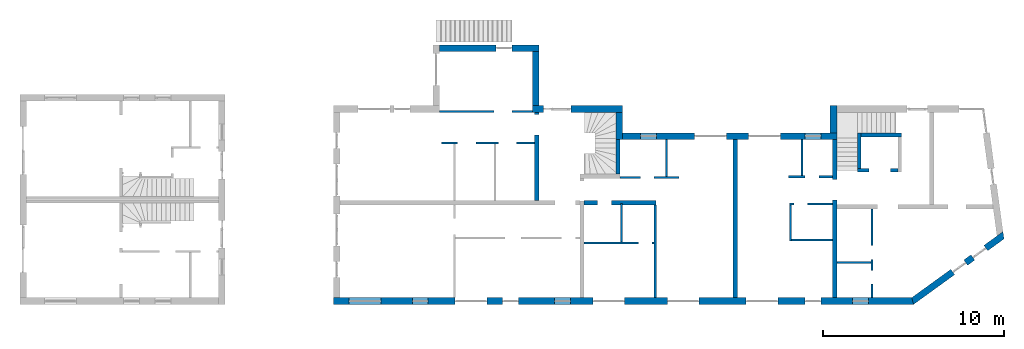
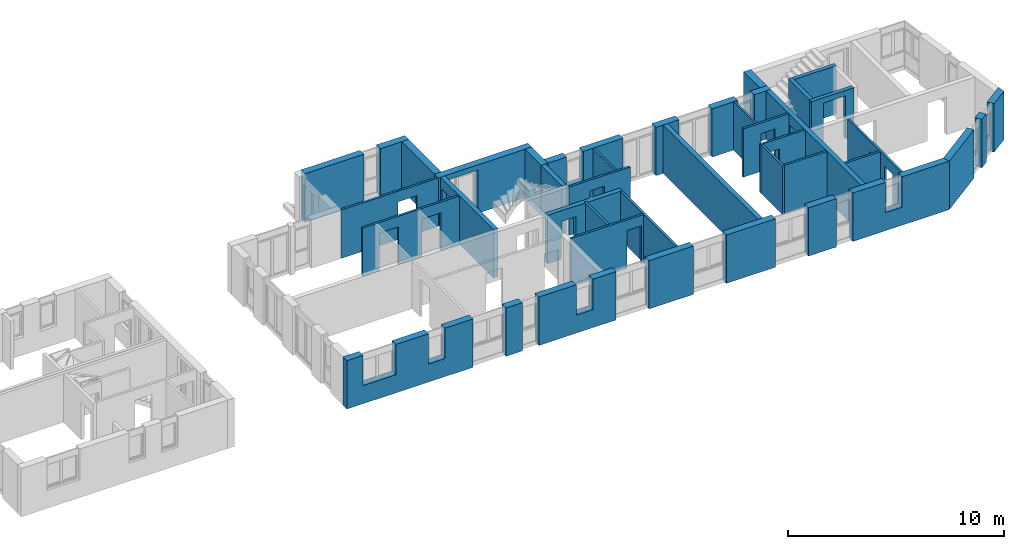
# One storey, part 2 of 41: 30 walls, 31 openings.
"""IFC2X3 building model written with IfcOpenShell, lengths in millimetres."""

from ifc_helpers import new_model, entity, si_unit, converted_unit, frame, frame_2d, origin, origin_with_axes, place, context, subcontext, project, spatial, polyline, rectangle, outline, extrude, material, layer, layer_set, layer_usage, element, save


model = new_model("IFC2X3")

# Units and contexts
model_context = context("Model", 3, precision=1e-05, world=origin())
body_context = subcontext(model_context, "Body", "Model", "MODEL_VIEW")
ifc_project = project(units=[si_unit("LENGTHUNIT", "METRE", prefix="MILLI"), converted_unit("PLANEANGLEUNIT", "DEGREE", entity("IfcPlaneAngleMeasure", 0.0174532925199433), si_unit("PLANEANGLEUNIT", "RADIAN"), dimensions=[0, 0, 0, 0, 0, 0, 0]), si_unit("AREAUNIT", "SQUARE_METRE"), si_unit("VOLUMEUNIT", "CUBIC_METRE")], contexts=[model_context])

# Building, storey
building_placement = place(None, origin())
building = spatial("IfcBuilding", under=ifc_project, at=building_placement, Name="Gebäude", CompositionType="ELEMENT")
storey_placement = place(building_placement, frame((0.0, 0.0, -200.0), z_axis=(0.0, 0.0, 1.0), x_axis=(1.0, 0.0, 0.0)))
storey = spatial("IfcBuildingStorey", under=building, at=storey_placement, Name="EG.- Grundriss", CompositionType="ELEMENT", Elevation=-200.0)

# Wall, openings
ifc_material_1 = material(Name="Poroton")
ifc_layer_1 = layer(ifc_material_1, 365.0000000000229)
ifc_layer_set_1 = layer_set([ifc_layer_1])
ifc_layer_usage_1 = layer_usage(ifc_layer_set_1, "AXIS2", "POSITIVE", 0.0)
wall_1_placement = place(storey_placement, frame((148357.7928067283, 125274.8877324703, 0.0), z_axis=(0.0, 0.0, 1.0), x_axis=(1.0, -2.749268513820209e-11, 0.0)))
wall_1 = element("IfcWallStandardCase", 1, at=wall_1_placement, inside=storey, material=ifc_layer_usage_1, Name="<Unnamed Element>", context=body_context, shape_type="SweptSolid", body=[
    extrude(outline(polyline([(0.0, 0.0), (32144.99999877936, 0.0), (32026.74038666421, 365.0000000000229), (-1.003483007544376e-08, 365.0), (0.0, 0.0)])), origin_with_axes(), (0.0, 0.0, 1.0), 2730.0),
])
opening_1_placement = place(wall_1_placement, frame((28740.29648749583, -1.103025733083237e-10, 1020.0), z_axis=(0.0, 1.0, 0.0), x_axis=(0.0, 0.0, 1.0)))
element("IfcOpeningElement", 2, at=opening_1_placement, cuts=wall_1, Name="Fensteröffnung", ObjectType="Opening", context=body_context, shape_type="SweptSolid", body=[
    extrude(rectangle(XDim=1710.0, YDim=885.0, at=frame_2d((855.0, 442.5), x_axis=(1.0, 0.0))), origin_with_axes(), (0.0, 0.0, 1.0), 365.0000000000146),
])
opening_2_placement = place(wall_1_placement, frame((26115.29648749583, -1.048456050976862e-10, 0.0), z_axis=(0.0, 1.0, 0.0), x_axis=(0.0, 0.0, 1.0)))
element("IfcOpeningElement", 3, at=opening_2_placement, cuts=wall_1, Name="Fensteröffnung", ObjectType="Opening", context=body_context, shape_type="SweptSolid", body=[
    extrude(rectangle(XDim=2730.0, YDim=885.0, at=frame_2d((1365.0, 442.5), x_axis=(1.0, 0.0))), origin_with_axes(), (0.0, 0.0, 1.0), 365.0000000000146),
])
opening_3_placement = place(wall_1_placement, frame((22865.29648749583, -7.937975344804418e-11, 0.0), z_axis=(0.0, 1.0, 0.0), x_axis=(0.0, 0.0, 1.0)))
element("IfcOpeningElement", 4, at=opening_3_placement, cuts=wall_1, Name="Fensteröffnung", ObjectType="Opening", context=body_context, shape_type="SweptSolid", body=[
    extrude(rectangle(XDim=2730.0, YDim=1760.0, at=frame_2d((1365.0, 880.0), x_axis=(1.0, 0.0))), origin_with_axes(), (0.0, 0.0, 1.0), 365.0000000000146),
])
opening_4_placement = place(wall_1_placement, frame((18490.51063065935, -4.984640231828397e-11, 0.0), z_axis=(0.0, 1.0, 0.0), x_axis=(0.0, 0.0, 1.0)))
element("IfcOpeningElement", 5, at=opening_4_placement, cuts=wall_1, Name="Fensteröffnung", ObjectType="Opening", context=body_context, shape_type="SweptSolid", body=[
    extrude(rectangle(XDim=2730.0, YDim=1760.0, at=frame_2d((1365.0, 880.0), x_axis=(1.0, 0.0))), origin_with_axes(), (0.0, 0.0, 1.0), 365.0000000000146),
])
opening_5_placement = place(wall_1_placement, frame((14365.26291871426, -7.302655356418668e-11, 0.0), z_axis=(0.0, 1.0, 0.0), x_axis=(0.0, 0.0, 1.0)))
element("IfcOpeningElement", 6, at=opening_5_placement, cuts=wall_1, Name="Fensteröffnung", ObjectType="Opening", context=body_context, shape_type="SweptSolid", body=[
    extrude(rectangle(XDim=2730.0, YDim=1760.0, at=frame_2d((1365.0, 880.0), x_axis=(1.0, 0.0))), origin_with_axes(), (0.0, 0.0, 1.0), 365.0000000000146),
])
opening_6_placement = place(wall_1_placement, frame((12240.0, -5.296897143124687e-11, 1020.0), z_axis=(0.0, 1.0, 0.0), x_axis=(0.0, 0.0, 1.0)))
element("IfcOpeningElement", 7, at=opening_6_placement, cuts=wall_1, Name="Fensteröffnung", ObjectType="Opening", context=body_context, shape_type="SweptSolid", body=[
    extrude(rectangle(XDim=1710.0, YDim=885.0, at=frame_2d((855.0, 442.5), x_axis=(1.0, 0.0))), origin_with_axes(), (0.0, 0.0, 1.0), 365.0000000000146),
])
opening_7_placement = place(wall_1_placement, frame((9365.0, -3.659806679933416e-11, 0.0), z_axis=(0.0, 1.0, 0.0), x_axis=(0.0, 0.0, 1.0)))
element("IfcOpeningElement", 8, at=opening_7_placement, cuts=wall_1, Name="Fensteröffnung", ObjectType="Opening", context=body_context, shape_type="SweptSolid", body=[
    extrude(rectangle(XDim=2730.0, YDim=885.0, at=frame_2d((1365.0, 442.5), x_axis=(1.0, 0.0))), origin_with_axes(), (0.0, 0.0, 1.0), 365.0000000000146),
])
opening_8_placement = place(wall_1_placement, frame((6740.0, -3.114109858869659e-11, 0.0), z_axis=(0.0, 1.0, 0.0), x_axis=(0.0, 0.0, 1.0)))
element("IfcOpeningElement", 9, at=opening_8_placement, cuts=wall_1, Name="Fensteröffnung", ObjectType="Opening", context=body_context, shape_type="SweptSolid", body=[
    extrude(rectangle(XDim=2730.0, YDim=1760.0, at=frame_2d((1365.0, 880.0), x_axis=(1.0, 0.0))), origin_with_axes(), (0.0, 0.0, 1.0), 365.0000000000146),
])
opening_9_placement = place(wall_1_placement, frame((4365.0, -7.494236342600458e-12, 1020.0), z_axis=(0.0, 1.0, 0.0), x_axis=(0.0, 0.0, 1.0)))
element("IfcOpeningElement", 10, at=opening_9_placement, cuts=wall_1, Name="Fensteröffnung", ObjectType="Opening", context=body_context, shape_type="SweptSolid", body=[
    extrude(rectangle(XDim=1710.0, YDim=885.0, at=frame_2d((855.0, 442.5), x_axis=(1.0, 0.0))), origin_with_axes(), (0.0, 0.0, 1.0), 365.0000000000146),
])
opening_10_placement = place(wall_1_placement, frame((865.0, -2.182787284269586e-13, 1020.0), z_axis=(0.0, 1.0, 0.0), x_axis=(0.0, 0.0, 1.0)))
element("IfcOpeningElement", 11, at=opening_10_placement, cuts=wall_1, Name="Fensteröffnung", ObjectType="Opening", context=body_context, shape_type="SweptSolid", body=[
    extrude(rectangle(XDim=1710.0, YDim=1760.0, at=frame_2d((854.9999999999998, 880.0), x_axis=(1.0, 0.0))), origin_with_axes(), (0.0, 0.0, 1.0), 365.0000000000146),
])

ifc_material_2 = material(Name="Poroton")
ifc_layer_2 = layer(ifc_material_2, 364.9999999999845)
ifc_layer_set_2 = layer_set([ifc_layer_2])
ifc_layer_usage_2 = layer_usage(ifc_layer_set_2, "AXIS2", "POSITIVE", 0.0)
wall_2_placement = place(storey_placement, frame((180502.7928055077, 125274.8877315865, 0.0), z_axis=(0.0, 0.0, 1.0), x_axis=(0.8099951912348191, 0.5864365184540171, 0.0)))
wall_2 = element("IfcWallStandardCase", 12, at=wall_2_placement, inside=storey, material=ifc_layer_usage_2, Name="<Unnamed Element>", context=body_context, shape_type="SweptSolid", body=[
    extrude(outline(polyline([(0.0, 0.0), (6172.876154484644, 0.0), (6368.596706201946, 364.9999999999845), (118.2596121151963, 365.0000000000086), (0.0, 0.0)])), origin_with_axes(), (0.0, 0.0, 1.0), 2730.0),
])
opening_11_placement = place(wall_2_placement, frame((4174.999999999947, 1.546140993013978e-11, 0.0), z_axis=(0.0, 1.0, 0.0), x_axis=(0.0, 0.0, 1.0)))
element("IfcOpeningElement", 13, at=opening_11_placement, cuts=wall_2, Name="Fensteröffnung", ObjectType="Opening", context=body_context, shape_type="SweptSolid", body=[
    extrude(rectangle(XDim=2730.0, YDim=885.0, at=frame_2d((1365.0, 442.5), x_axis=(1.0, 0.0))), origin_with_axes(), (0.0, 0.0, 1.0), 364.9999999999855),
])
opening_12_placement = place(wall_2_placement, frame((2799.999999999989, 2.023625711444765e-11, 0.0), z_axis=(0.0, 1.0, 0.0), x_axis=(0.0, 0.0, 1.0)))
element("IfcOpeningElement", 14, at=opening_12_placement, cuts=wall_2, Name="Fensteröffnung", ObjectType="Opening", context=body_context, shape_type="SweptSolid", body=[
    extrude(rectangle(XDim=2730.0, YDim=884.9999999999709, at=frame_2d((1365.0, 442.4999999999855), x_axis=(1.0, 0.0))), origin_with_axes(), (0.0, 0.0, 1.0), 365.0),
])

# Wall, opening
ifc_material_3 = material(Name="Poroton")
ifc_layer_3 = layer(ifc_material_3, 365.0000000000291)
ifc_layer_set_3 = layer_set([ifc_layer_3])
ifc_layer_usage_3 = layer_usage(ifc_layer_set_3, "AXIS2", "POSITIVE", 0.0)
wall_3_placement = place(storey_placement, frame((154222.7928067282, 139284.8877324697, 0.0), z_axis=(0.0, 0.0, 1.0), x_axis=(0.9999999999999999, 0.0, 0.0)))
wall_3 = element("IfcWallStandardCase", 15, at=wall_3_placement, inside=storey, material=ifc_layer_usage_3, Name="<Unnamed Element>", context=body_context, shape_type="SweptSolid", body=[
    extrude(rectangle(XDim=5520.000000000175, YDim=365.0000000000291, at=frame_2d((2760.000000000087, 182.5000000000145), x_axis=(1.0, 0.0))), origin_with_axes(), (0.0, 0.0, 1.0), 2730.0),
])
opening_13_placement = place(wall_3_placement, frame((3145.000000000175, 0.0, 0.0), z_axis=(0.0, 1.0, 0.0), x_axis=(0.0, 0.0, 1.0)))
element("IfcOpeningElement", 16, at=opening_13_placement, cuts=wall_3, Name="Fensteröffnung", ObjectType="Opening", context=body_context, shape_type="SweptSolid", body=[
    extrude(rectangle(XDim=2730.0, YDim=885.0, at=frame_2d((1365.0, 442.5), x_axis=(1.0, 0.0))), origin_with_axes(), (0.0, 0.0, 1.0), 365.0000000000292),
])

# Walls
ifc_material_4 = material(Name="Poroton")
ifc_layer_4 = layer(ifc_material_4, 365.0000000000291)
ifc_layer_set_4 = layer_set([ifc_layer_4])
ifc_layer_usage_4 = layer_usage(ifc_layer_set_4, "AXIS2", "POSITIVE", 0.0)
wall_4_placement = place(storey_placement, frame((159377.7928067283, 139284.8877324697, 0.0), z_axis=(0.0, 0.0, 1.0), x_axis=(0.0, -1.0, 0.0)))
element("IfcWallStandardCase", 17, at=wall_4_placement, inside=storey, material=ifc_layer_usage_4, Name="<Unnamed Element>", context=body_context, shape_type="SweptSolid", body=[
    extrude(rectangle(XDim=3009.999999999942, YDim=365.0000000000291, at=frame_2d((1504.999999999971, 182.5000000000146), x_axis=(1.0, 0.0))), origin_with_axes(), (0.0, 0.0, 1.0), 2730.0),
])
ifc_material_5 = material(Name="Poroton")
ifc_layer_5 = layer(ifc_material_5, 365.0000000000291)
ifc_layer_set_5 = layer_set([ifc_layer_5])
ifc_layer_usage_5 = layer_usage(ifc_layer_set_5, "AXIS2", "POSITIVE", 0.0)
wall_5_placement = place(storey_placement, frame((164367.7928067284, 134409.8877324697, 0.0), z_axis=(0.0, 0.0, 1.0), x_axis=(0.0, 1.0, 0.0)))
element("IfcWallStandardCase", 18, at=wall_5_placement, inside=storey, material=ifc_layer_usage_5, Name="<Unnamed Element>", context=body_context, shape_type="SweptSolid", body=[
    extrude(rectangle(XDim=1499.999999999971, YDim=365.0000000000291, at=frame_2d((749.9999999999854, 182.5000000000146), x_axis=(1.0, 0.0))), origin_with_axes(), (0.0, 0.0, 1.0), 2730.0),
])

# Wall, opening
ifc_material_6 = material(Name="Poroton")
ifc_layer_6 = layer(ifc_material_6, 365.0000000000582)
ifc_layer_set_6 = layer_set([ifc_layer_6])
ifc_layer_usage_6 = layer_usage(ifc_layer_set_6, "AXIS2", "POSITIVE", 0.0)
wall_6_placement = place(storey_placement, frame((164367.7928067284, 136274.8877324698, 0.0), z_axis=(0.0, 0.0, 1.0), x_axis=(-1.0, 0.0, 0.0)))
wall_6 = element("IfcWallStandardCase", 19, at=wall_6_placement, inside=storey, material=ifc_layer_usage_6, Name="<Unnamed Element>", context=body_context, shape_type="SweptSolid", body=[
    extrude(rectangle(XDim=4990.000000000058, YDim=365.0000000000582, at=frame_2d((2495.000000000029, 182.5000000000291), x_axis=(1.0, 0.0))), origin_with_axes(), (0.0, 0.0, 1.0), 2730.0),
])
opening_14_placement = place(wall_6_placement, frame((2865.000000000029, 0.0, 0.0), z_axis=(0.0, 1.0, 0.0), x_axis=(0.0, 0.0, 1.0)))
element("IfcOpeningElement", 20, at=opening_14_placement, cuts=wall_6, Name="Türöffnung", ObjectType="Opening", context=body_context, shape_type="SweptSolid", body=[
    extrude(rectangle(XDim=2430.0, YDim=1510.0, at=frame_2d((1215.0, 755.0), x_axis=(1.0, 0.0))), origin_with_axes(), (0.0, 0.0, 1.0), 365.0000000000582),
])

# Walls
ifc_material_7 = material(Name="Stb-Wand")
ifc_layer_7 = layer(ifc_material_7, 200.0)
ifc_layer_set_7 = layer_set([ifc_layer_7])
ifc_layer_usage_7 = layer_usage(ifc_layer_set_7, "AXIS2", "POSITIVE", 0.0)
wall_7_placement = place(storey_placement, frame((177587.7928067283, 132804.8877324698, 0.0), z_axis=(0.0, 0.0, 1.0), x_axis=(0.0, 1.0, 0.0)))
element("IfcWallStandardCase", 21, at=wall_7_placement, inside=storey, material=ifc_layer_usage_7, Name="<Unnamed Element>", context=body_context, shape_type="SweptSolid", body=[
    extrude(rectangle(XDim=1950.0, YDim=200.0, at=frame_2d((975.0, 100.0), x_axis=(1.0, 0.0))), origin_with_axes(), (0.0, 0.0, 1.0), 2730.0),
])
ifc_material_8 = material(Name="Stb-Wand")
ifc_layer_8 = layer(ifc_material_8, 200.0)
ifc_layer_set_8 = layer_set([ifc_layer_8])
ifc_layer_usage_8 = layer_usage(ifc_layer_set_8, "AXIS2", "POSITIVE", 0.0)
wall_8_placement = place(storey_placement, frame((177587.7928067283, 134554.8877324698, 0.0), z_axis=(0.0, 0.0, 1.0), x_axis=(1.0, 0.0, 0.0)))
element("IfcWallStandardCase", 22, at=wall_8_placement, inside=storey, material=ifc_layer_usage_8, Name="<Unnamed Element>", context=body_context, shape_type="SweptSolid", body=[
    extrude(rectangle(XDim=2250.0, YDim=200.0, at=frame_2d((1125.0, 100.0), x_axis=(1.0, 0.0))), origin_with_axes(), (0.0, 0.0, 1.0), 2730.0),
])

# Wall, opening
ifc_material_9 = material(Name="Stb-Wand")
ifc_layer_9 = layer(ifc_material_9, 200.0)
ifc_layer_set_9 = layer_set([ifc_layer_9])
ifc_layer_usage_9 = layer_usage(ifc_layer_set_9, "AXIS2", "POSITIVE", 0.0)
wall_9_placement = place(storey_placement, frame((179637.7928067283, 132804.8877324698, 0.0), z_axis=(0.0, 0.0, 1.0), x_axis=(-1.0, 0.0, 0.0)))
wall_9 = element("IfcWallStandardCase", 23, at=wall_9_placement, inside=storey, material=ifc_layer_usage_9, Name="<Unnamed Element>", context=body_context, shape_type="SweptSolid", body=[
    extrude(rectangle(XDim=2250.0, YDim=200.0, at=frame_2d((1125.0, 100.0), x_axis=(1.0, 0.0))), origin_with_axes(), (0.0, 0.0, 1.0), 2730.0),
])
opening_15_placement = place(wall_9_placement, frame((435.0, 0.0, 0.0), z_axis=(0.0, 1.0, 0.0), x_axis=(0.0, 0.0, 1.0)))
element("IfcOpeningElement", 24, at=opening_15_placement, cuts=wall_9, Name="Türöffnung", ObjectType="Opening", context=body_context, shape_type="SweptSolid", body=[
    extrude(rectangle(XDim=2430.0, YDim=1180.0, at=frame_2d((1215.0, 590.0), x_axis=(1.0, 0.0))), origin_with_axes(), (0.0, 0.0, 1.0), 200.0),
])

# Wall
ifc_material_10 = material(Name="Poroton")
ifc_layer_10 = layer(ifc_material_10, 365.0000000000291)
ifc_layer_set_10 = layer_set([ifc_layer_10])
ifc_layer_usage_10 = layer_usage(ifc_layer_set_10, "AXIS2", "POSITIVE", 0.0)
wall_10_placement = place(storey_placement, frame((175872.7928067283, 136274.8877324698, 0.0), z_axis=(0.0, 0.0, 1.0), x_axis=(0.0, -1.0, 0.0)))
element("IfcWallStandardCase", 25, at=wall_10_placement, inside=storey, material=ifc_layer_usage_10, Name="<Unnamed Element>", context=body_context, shape_type="SweptSolid", body=[
    extrude(rectangle(XDim=1500.0, YDim=365.0000000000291, at=frame_2d((750.0, 182.5000000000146), x_axis=(1.0, 0.0))), origin_with_axes(), (0.0, 0.0, 1.0), 2730.0),
])

# Wall, openings
ifc_material_11 = material(Name="Poroton")
ifc_layer_11 = layer(ifc_material_11, 365.0000000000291)
ifc_layer_set_11 = layer_set([ifc_layer_11])
ifc_layer_usage_11 = layer_usage(ifc_layer_set_11, "AXIS2", "POSITIVE", 0.0)
wall_11_placement = place(storey_placement, frame((176237.7928067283, 134774.8877324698, 0.0), z_axis=(0.0, 0.0, 1.0), x_axis=(-1.0, 0.0, 0.0)))
wall_11 = element("IfcWallStandardCase", 26, at=wall_11_placement, inside=storey, material=ifc_layer_usage_11, Name="<Unnamed Element>", context=body_context, shape_type="SweptSolid", body=[
    extrude(rectangle(XDim=11869.99999999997, YDim=365.0000000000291, at=frame_2d((5934.999999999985, 182.5000000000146), x_axis=(1.0, 0.0))), origin_with_axes(), (0.0, 0.0, 1.0), 2730.0),
])
opening_16_placement = place(wall_11_placement, frame((9990.00000000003, 0.0, 1020.0), z_axis=(0.0, 1.0, 0.0), x_axis=(0.0, 0.0, 1.0)))
element("IfcOpeningElement", 27, at=opening_16_placement, cuts=wall_11, Name="Fensteröffnung", ObjectType="Opening", context=body_context, shape_type="SweptSolid", body=[
    extrude(rectangle(XDim=1710.0, YDim=885.0, at=frame_2d((855.0, 442.5), x_axis=(1.0, 0.0))), origin_with_axes(), (0.0, 0.0, 1.0), 365.0000000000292),
])
opening_17_placement = place(wall_11_placement, frame((6115.000000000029, 0.0, 0.0), z_axis=(0.0, 1.0, 0.0), x_axis=(0.0, 0.0, 1.0)))
element("IfcOpeningElement", 28, at=opening_17_placement, cuts=wall_11, Name="Fensteröffnung", ObjectType="Opening", context=body_context, shape_type="SweptSolid", body=[
    extrude(rectangle(XDim=2730.0, YDim=1760.0, at=frame_2d((1365.0, 880.0), x_axis=(1.0, 0.0))), origin_with_axes(), (0.0, 0.0, 1.0), 365.0000000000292),
])
opening_18_placement = place(wall_11_placement, frame((3115.000000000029, 0.0, 0.0), z_axis=(0.0, 1.0, 0.0), x_axis=(0.0, 0.0, 1.0)))
element("IfcOpeningElement", 29, at=opening_18_placement, cuts=wall_11, Name="Fensteröffnung", ObjectType="Opening", context=body_context, shape_type="SweptSolid", body=[
    extrude(rectangle(XDim=2730.0, YDim=1760.0, at=frame_2d((1365.0, 880.0), x_axis=(1.0, 0.0))), origin_with_axes(), (0.0, 0.0, 1.0), 365.0000000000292),
])
opening_19_placement = place(wall_11_placement, frame((865.0000000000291, 0.0, 1020.0), z_axis=(0.0, 1.0, 0.0), x_axis=(0.0, 0.0, 1.0)))
element("IfcOpeningElement", 30, at=opening_19_placement, cuts=wall_11, Name="Fensteröffnung", ObjectType="Opening", context=body_context, shape_type="SweptSolid", body=[
    extrude(rectangle(XDim=1710.0, YDim=885.0, at=frame_2d((855.0, 442.5), x_axis=(1.0, 0.0))), origin_with_axes(), (0.0, 0.0, 1.0), 365.0000000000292),
])

# Wall, opening
ifc_material_12 = material(Name="Hlz")
ifc_layer_12 = layer(ifc_material_12, 115.0)
ifc_layer_set_12 = layer_set([ifc_layer_12])
ifc_layer_usage_12 = layer_usage(ifc_layer_set_12, "AXIS2", "POSITIVE", 0.0)
wall_12_placement = place(storey_placement, frame((154222.7928067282, 135909.8877324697, 0.0), z_axis=(0.0, 0.0, 1.0), x_axis=(1.0, 0.0, 0.0)))
wall_12 = element("IfcWallStandardCase", 31, at=wall_12_placement, inside=storey, material=ifc_layer_usage_12, Name="<Unnamed Element>", context=body_context, shape_type="SweptSolid", body=[
    extrude(rectangle(XDim=5155.000000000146, YDim=115.0, at=frame_2d((2577.500000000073, 57.5), x_axis=(1.0, 0.0))), origin_with_axes(), (0.0, 0.0, 1.0), 2730.0),
])
opening_20_placement = place(wall_12_placement, frame((3020.000000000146, 0.0, 0.0), z_axis=(0.0, 1.0, 0.0), x_axis=(0.0, 0.0, 1.0)))
element("IfcOpeningElement", 32, at=opening_20_placement, cuts=wall_12, Name="Türöffnung", ObjectType="Opening", context=body_context, shape_type="SweptSolid", body=[
    extrude(rectangle(XDim=2135.000000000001, YDim=1010.0, at=frame_2d((1067.5, 505.0), x_axis=(1.0, 0.0))), origin_with_axes(), (0.0, 0.0, 1.0), 115.0),
])

ifc_material_13 = material(Name="Hlz")
ifc_layer_13 = layer(ifc_material_13, 115.0)
ifc_layer_set_13 = layer_set([ifc_layer_13])
ifc_layer_usage_13 = layer_usage(ifc_layer_set_13, "AXIS2", "POSITIVE", 0.0)
wall_13_placement = place(storey_placement, frame((175997.7928067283, 132399.8877324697, 0.0), z_axis=(0.0, 0.0, 1.0), x_axis=(-1.0, 0.0, 0.0)))
wall_13 = element("IfcWallStandardCase", 33, at=wall_13_placement, inside=storey, material=ifc_layer_usage_13, Name="<Unnamed Element>", context=body_context, shape_type="SweptSolid", body=[
    extrude(rectangle(XDim=2443.777161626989, YDim=115.0, at=frame_2d((1221.888580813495, 57.5), x_axis=(1.0, 0.0))), origin_with_axes(), (0.0, 0.0, 1.0), 2730.0),
])
opening_21_placement = place(wall_13_placement, frame((750.0, 0.0, 0.0), z_axis=(0.0, 1.0, 0.0), x_axis=(0.0, 0.0, 1.0)))
element("IfcOpeningElement", 34, at=opening_21_placement, cuts=wall_13, Name="Türöffnung", ObjectType="Opening", context=body_context, shape_type="SweptSolid", body=[
    extrude(rectangle(XDim=2135.0, YDim=760.0, at=frame_2d((1067.5, 380.0), x_axis=(1.0, 0.0))), origin_with_axes(), (0.0, 0.0, 1.0), 115.0),
])

# Wall
ifc_material_14 = material(Name="Hlz")
ifc_layer_14 = layer(ifc_material_14, 115.0)
ifc_layer_set_14 = layer_set([ifc_layer_14])
ifc_layer_usage_14 = layer_usage(ifc_layer_set_14, "AXIS2", "POSITIVE", 0.0)
wall_14_placement = place(storey_placement, frame((174362.7928067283, 132399.8877324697, 0.0), z_axis=(0.0, 0.0, 1.0), x_axis=(0.0, 0.9999999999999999, 0.0)))
element("IfcWallStandardCase", 35, at=wall_14_placement, inside=storey, material=ifc_layer_usage_14, Name="<Unnamed Element>", context=body_context, shape_type="SweptSolid", body=[
    extrude(rectangle(XDim=2010.0, YDim=115.0, at=frame_2d((1005.0, 57.49999999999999), x_axis=(1.0, 0.0))), origin_with_axes(), (0.0, 0.0, 1.0), 2730.0),
])

# Wall, opening
ifc_material_15 = material(Name="Hlz")
ifc_layer_15 = layer(ifc_material_15, 115.0)
ifc_layer_set_15 = layer_set([ifc_layer_15])
ifc_layer_usage_15 = layer_usage(ifc_layer_set_15, "AXIS2", "POSITIVE", 0.0)
wall_15_placement = place(storey_placement, frame((175997.7928067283, 130899.8877324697, 0.0), z_axis=(0.0, 0.0, 1.0), x_axis=(-1.0, 0.0, 0.0)))
wall_15 = element("IfcWallStandardCase", 36, at=wall_15_placement, inside=storey, material=ifc_layer_usage_15, Name="<Unnamed Element>", context=body_context, shape_type="SweptSolid", body=[
    extrude(rectangle(XDim=2375.0, YDim=115.0, at=frame_2d((1187.5, 57.5), x_axis=(1.0, 0.0))), origin_with_axes(), (0.0, 0.0, 1.0), 2730.0),
])
opening_22_placement = place(wall_15_placement, frame((1375.0, 0.0, 0.0), z_axis=(0.0, 1.0, 0.0), x_axis=(0.0, 0.0, 1.0)))
element("IfcOpeningElement", 37, at=opening_22_placement, cuts=wall_15, Name="Türöffnung", ObjectType="Opening", context=body_context, shape_type="SweptSolid", body=[
    extrude(rectangle(XDim=2135.0, YDim=760.0, at=frame_2d((1067.5, 380.0), x_axis=(1.0, 0.0))), origin_with_axes(), (0.0, 0.0, 1.0), 115.0),
])

# Walls
ifc_material_16 = material(Name="Hlz")
ifc_layer_16 = layer(ifc_material_16, 115.0)
ifc_layer_set_16 = layer_set([ifc_layer_16])
ifc_layer_usage_16 = layer_usage(ifc_layer_set_16, "AXIS2", "POSITIVE", 0.0)
wall_16_placement = place(storey_placement, frame((173622.7928067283, 130784.8877324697, 0.0), z_axis=(0.0, 0.0, 1.0), x_axis=(0.0, -1.0, 0.0)))
element("IfcWallStandardCase", 38, at=wall_16_placement, inside=storey, material=ifc_layer_usage_16, Name="<Unnamed Element>", context=body_context, shape_type="SweptSolid", body=[
    extrude(rectangle(XDim=2000.0, YDim=115.0, at=frame_2d((1000.0, 57.5), x_axis=(1.0, 0.0))), origin_with_axes(), (0.0, 0.0, 1.0), 2730.0),
])
ifc_material_17 = material(Name="Hlz")
ifc_layer_17 = layer(ifc_material_17, 115.0)
ifc_layer_set_17 = layer_set([ifc_layer_17])
ifc_layer_usage_17 = layer_usage(ifc_layer_set_17, "AXIS2", "POSITIVE", 0.0)
wall_17_placement = place(storey_placement, frame((173737.7928067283, 128784.8877324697, 0.0), z_axis=(0.0, 0.0, 1.0), x_axis=(1.0, 0.0, 0.0)))
element("IfcWallStandardCase", 39, at=wall_17_placement, inside=storey, material=ifc_layer_usage_17, Name="<Unnamed Element>", context=body_context, shape_type="SweptSolid", body=[
    extrude(rectangle(XDim=2260.0, YDim=115.0, at=frame_2d((1130.0, 57.5), x_axis=(1.0, 0.0))), origin_with_axes(), (0.0, 0.0, 1.0), 2730.0),
])

# Wall, openings
ifc_material_18 = material(Name="Hlz")
ifc_layer_18 = layer(ifc_material_18, 115.0)
ifc_layer_set_18 = layer_set([ifc_layer_18])
ifc_layer_usage_18 = layer_usage(ifc_layer_set_18, "AXIS2", "POSITIVE", 0.0)
wall_18_placement = place(storey_placement, frame((178122.7928067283, 130554.8877324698, 0.0), z_axis=(0.0, 0.0, 1.0), x_axis=(0.0, -1.0, 0.0)))
wall_18 = element("IfcWallStandardCase", 40, at=wall_18_placement, inside=storey, material=ifc_layer_usage_18, Name="<Unnamed Element>", context=body_context, shape_type="SweptSolid", body=[
    extrude(rectangle(XDim=4915.000000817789, YDim=115.0, at=frame_2d((2457.500000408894, 57.5), x_axis=(1.0, 0.0))), origin_with_axes(), (0.0, 0.0, 1.0), 2730.0),
])
opening_23_placement = place(wall_18_placement, frame((3399.999999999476, 0.0, 0.0), z_axis=(0.0, 1.0, 0.0), x_axis=(0.0, 0.0, 1.0)))
element("IfcOpeningElement", 41, at=opening_23_placement, cuts=wall_18, Name="Türöffnung", ObjectType="Opening", context=body_context, shape_type="SweptSolid", body=[
    extrude(rectangle(XDim=2135.000000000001, YDim=760.0, at=frame_2d((1067.5, 380.0), x_axis=(1.0, 0.0))), origin_with_axes(), (0.0, 0.0, 1.0), 115.0),
])
opening_24_placement = place(wall_18_placement, frame((2024.999999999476, 0.0, 0.0), z_axis=(0.0, 1.0, 0.0), x_axis=(0.0, 0.0, 1.0)))
element("IfcOpeningElement", 42, at=opening_24_placement, cuts=wall_18, Name="Türöffnung", ObjectType="Opening", context=body_context, shape_type="SweptSolid", body=[
    extrude(rectangle(XDim=2135.000000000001, YDim=760.0, at=frame_2d((1067.5, 380.0), x_axis=(1.0, 0.0))), origin_with_axes(), (0.0, 0.0, 1.0), 115.0),
])

# Wall
ifc_material_19 = material(Name="Hlz")
ifc_layer_19 = layer(ifc_material_19, 115.0)
ifc_layer_set_19 = layer_set([ifc_layer_19])
ifc_layer_usage_19 = layer_usage(ifc_layer_set_19, "AXIS2", "POSITIVE", 0.0)
wall_19_placement = place(storey_placement, frame((176237.7928067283, 127529.8877324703, 0.0), z_axis=(0.0, 0.0, 1.0), x_axis=(0.9999999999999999, 0.0, 0.0)))
element("IfcWallStandardCase", 43, at=wall_19_placement, inside=storey, material=ifc_layer_usage_19, Name="<Unnamed Element>", context=body_context, shape_type="SweptSolid", body=[
    extrude(rectangle(XDim=1885.0, YDim=115.0, at=frame_2d((942.5, 57.49999999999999), x_axis=(1.0, 0.0))), origin_with_axes(), (0.0, 0.0, 1.0), 2730.0),
])

# Wall, openings
ifc_material_20 = material(Name="Hlz")
ifc_layer_20 = layer(ifc_material_20, 115.0)
ifc_layer_set_20 = layer_set([ifc_layer_20])
ifc_layer_usage_20 = layer_usage(ifc_layer_set_20, "AXIS2", "POSITIVE", 0.0)
wall_20_placement = place(storey_placement, frame((159502.7928067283, 134274.8877324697, 0.0), z_axis=(0.0, 0.0, 1.0), x_axis=(-1.0, 0.0, 0.0)))
wall_20 = element("IfcWallStandardCase", 44, at=wall_20_placement, inside=storey, material=ifc_layer_usage_20, Name="<Unnamed Element>", context=body_context, shape_type="SweptSolid", body=[
    extrude(rectangle(XDim=5169.228627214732, YDim=115.0, at=frame_2d((2584.614313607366, 57.5), x_axis=(1.0, 0.0))), origin_with_axes(), (0.0, 0.0, 1.0), 2730.0),
])
opening_25_placement = place(wall_20_placement, frame((3255.0, 0.0, 0.0), z_axis=(0.0, 1.0, 0.0), x_axis=(0.0, 0.0, 1.0)))
element("IfcOpeningElement", 45, at=opening_25_placement, cuts=wall_20, Name="Türöffnung", ObjectType="Opening", context=body_context, shape_type="SweptSolid", body=[
    extrude(rectangle(XDim=2135.000000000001, YDim=1010.0, at=frame_2d((1067.5, 505.0), x_axis=(1.0, 0.0))), origin_with_axes(), (0.0, 0.0, 1.0), 115.0),
])
opening_26_placement = place(wall_20_placement, frame((1000.0, 0.0, 0.0), z_axis=(0.0, 1.0, 0.0), x_axis=(0.0, 0.0, 1.0)))
element("IfcOpeningElement", 46, at=opening_26_placement, cuts=wall_20, Name="Türöffnung", ObjectType="Opening", context=body_context, shape_type="SweptSolid", body=[
    extrude(rectangle(XDim=2135.000000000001, YDim=1010.0, at=frame_2d((1067.5, 505.0), x_axis=(1.0, 0.0))), origin_with_axes(), (0.0, 0.0, 1.0), 115.0),
])

# Wall, opening
ifc_material_21 = material(Name="Hlz")
ifc_layer_21 = layer(ifc_material_21, 240.0)
ifc_layer_set_21 = layer_set([ifc_layer_21])
ifc_layer_usage_21 = layer_usage(ifc_layer_set_21, "AXIS2", "POSITIVE", 0.0)
wall_21_placement = place(storey_placement, frame((148722.7928067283, 130774.8877324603, 0.0), z_axis=(0.0, 0.0, 1.0), x_axis=(1.0, 0.0, 0.0)))
wall_21 = element("IfcWallStandardCase", 47, at=wall_21_placement, inside=storey, material=ifc_layer_usage_21, Name="<Unnamed Element>", context=body_context, shape_type="SweptSolid", body=[
    extrude(outline(polyline([(17515.50752342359, 0.0), (17515.50409446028, 240.0), (13520.00000000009, 240.0), (13520.00000000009, 0.0), (15530.00000000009, 0.0), (15530.00000000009, 95.00000000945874), (15645.00000000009, 95.00000000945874), (15645.00000000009, 0.0), (17515.50752342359, 0.0)])), origin_with_axes(), (0.0, 0.0, 1.0), 2730.0),
])
opening_27_placement = place(wall_21_placement, frame((14270.00000000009, 0.0, 0.0), z_axis=(0.0, 1.0, 0.0), x_axis=(0.0, 0.0, 1.0)))
element("IfcOpeningElement", 48, at=opening_27_placement, cuts=wall_21, Name="Türöffnung", ObjectType="Opening", context=body_context, shape_type="SweptSolid", body=[
    extrude(rectangle(XDim=2135.0, YDim=760.0, at=frame_2d((1067.5, 380.0), x_axis=(1.0, 0.0))), origin_with_axes(), (0.0, 0.0, 1.0), 240.0),
])

# Wall
ifc_material_22 = material(Name="Hlz")
ifc_layer_22 = layer(ifc_material_22, 240.0)
ifc_layer_set_22 = layer_set([ifc_layer_22])
ifc_layer_usage_22 = layer_usage(ifc_layer_set_22, "AXIS2", "POSITIVE", 0.0)
wall_22_placement = place(storey_placement, frame((164002.7928067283, 134409.8877324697, 0.0), z_axis=(0.0, 0.0, 1.0), x_axis=(0.0, -1.0, 0.0)))
element("IfcWallStandardCase", 49, at=wall_22_placement, inside=storey, material=ifc_layer_usage_22, Name="<Unnamed Element>", context=body_context, shape_type="SweptSolid", body=[
    extrude(rectangle(XDim=1925.000000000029, YDim=240.0, at=frame_2d((962.5000000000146, 120.0), x_axis=(1.0, 0.0))), origin_with_axes(), (0.0, 0.0, 1.0), 2730.0),
])

# Wall, opening
ifc_material_23 = material(Name="Hlz")
ifc_layer_23 = layer(ifc_material_23, 115.0)
ifc_layer_set_23 = layer_set([ifc_layer_23])
ifc_layer_usage_23 = layer_usage(ifc_layer_set_23, "AXIS2", "POSITIVE", 0.0)
wall_23_placement = place(storey_placement, frame((164242.7928067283, 132244.8877324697, 0.0), z_axis=(0.0, 0.0, 1.0), x_axis=(0.9999999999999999, 0.0, 0.0)))
wall_23 = element("IfcWallStandardCase", 50, at=wall_23_placement, inside=storey, material=ifc_layer_usage_23, Name="<Unnamed Element>", context=body_context, shape_type="SweptSolid", body=[
    extrude(rectangle(XDim=3265.406240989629, YDim=115.0, at=frame_2d((1632.703120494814, 57.49999999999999), x_axis=(1.0, 0.0))), origin_with_axes(), (0.0, 0.0, 1.0), 2730.0),
])
opening_28_placement = place(wall_23_placement, frame((1125.0, 0.0, 0.0), z_axis=(0.0, 1.0, 0.0), x_axis=(0.0, 0.0, 1.0)))
element("IfcOpeningElement", 51, at=opening_28_placement, cuts=wall_23, Name="Türöffnung", ObjectType="Opening", context=body_context, shape_type="SweptSolid", body=[
    extrude(rectangle(XDim=2135.0, YDim=760.0, at=frame_2d((1067.5, 380.0), x_axis=(1.0, 0.0))), origin_with_axes(), (0.0, 0.0, 1.0), 115.0),
])

# Walls
ifc_material_24 = material(Name="Hlz")
ifc_layer_24 = layer(ifc_material_24, 115.0)
ifc_layer_set_24 = layer_set([ifc_layer_24])
ifc_layer_usage_24 = layer_usage(ifc_layer_set_24, "AXIS2", "POSITIVE", 0.0)
wall_24_placement = place(storey_placement, frame((166752.7928067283, 134409.8877324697, 0.0), z_axis=(0.0, 0.0, 1.0), x_axis=(0.0, -1.0, 0.0)))
element("IfcWallStandardCase", 52, at=wall_24_placement, inside=storey, material=ifc_layer_usage_24, Name="<Unnamed Element>", context=body_context, shape_type="SweptSolid", body=[
    extrude(rectangle(XDim=2050.000000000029, YDim=115.0, at=frame_2d((1025.000000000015, 57.5), x_axis=(1.0, 0.0))), origin_with_axes(), (0.0, 0.0, 1.0), 2730.0),
])
ifc_material_25 = material(Name="Hlz")
ifc_layer_25 = layer(ifc_material_25, 240.0)
ifc_layer_set_25 = layer_set([ifc_layer_25])
ifc_layer_usage_25 = layer_usage(ifc_layer_set_25, "AXIS2", "POSITIVE", 0.0)
wall_25_placement = place(storey_placement, frame((170742.7928053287, 125639.8877318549, 0.0), z_axis=(0.0, 0.0, 1.0), x_axis=(0.0, 1.0, 0.0)))
element("IfcWallStandardCase", 53, at=wall_25_placement, inside=storey, material=ifc_layer_usage_25, Name="<Unnamed Element>", context=body_context, shape_type="SweptSolid", body=[
    extrude(rectangle(XDim=8770.000000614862, YDim=240.0, at=frame_2d((4385.000000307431, 120.0), x_axis=(1.0, 0.0))), origin_with_axes(), (0.0, 0.0, 1.0), 2730.0),
])

# Wall, opening
ifc_material_26 = material(Name="Hlz")
ifc_layer_26 = layer(ifc_material_26, 240.0)
ifc_layer_set_26 = layer_set([ifc_layer_26])
ifc_layer_usage_26 = layer_usage(ifc_layer_set_26, "AXIS2", "POSITIVE", 0.0)
wall_26_placement = place(storey_placement, frame((176237.7928067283, 125639.8877317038, 0.0), z_axis=(0.0, 0.0, 1.0), x_axis=(0.0, 1.0, 0.0)))
wall_26 = element("IfcWallStandardCase", 54, at=wall_26_placement, inside=storey, material=ifc_layer_usage_26, Name="<Unnamed Element>", context=body_context, shape_type="SweptSolid", body=[
    extrude(rectangle(XDim=8770.00000076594, YDim=240.0, at=frame_2d((4385.00000038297, 120.0), x_axis=(1.0, 0.0))), origin_with_axes(), (0.0, 0.0, 1.0), 2730.0),
])
opening_29_placement = place(wall_26_placement, frame((5415.000000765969, 0.0, 0.0), z_axis=(0.0, 1.0, 0.0), x_axis=(0.0, 0.0, 1.0)))
element("IfcOpeningElement", 55, at=opening_29_placement, cuts=wall_26, Name="Türöffnung", ObjectType="Opening", context=body_context, shape_type="SweptSolid", body=[
    extrude(rectangle(XDim=2135.0, YDim=1135.0, at=frame_2d((1067.5, 567.5), x_axis=(1.0, 0.0))), origin_with_axes(), (0.0, 0.0, 1.0), 240.0),
])

# Wall
ifc_material_27 = material(Name="Hlz")
ifc_layer_27 = layer(ifc_material_27, 115.0)
ifc_layer_set_27 = layer_set([ifc_layer_27])
ifc_layer_usage_27 = layer_usage(ifc_layer_set_27, "AXIS2", "POSITIVE", 0.0)
wall_27_placement = place(storey_placement, frame((166127.7928067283, 130774.8877324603, 0.0), z_axis=(0.0, 0.0, 1.0), x_axis=(0.0, -1.0, 0.0)))
element("IfcWallStandardCase", 56, at=wall_27_placement, inside=storey, material=ifc_layer_usage_27, Name="<Unnamed Element>", context=body_context, shape_type="SweptSolid", body=[
    extrude(rectangle(XDim=5135.000000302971, YDim=115.0, at=frame_2d((2567.500000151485, 57.5), x_axis=(1.0, 0.0))), origin_with_axes(), (0.0, 0.0, 1.0), 2730.0),
])

# Wall, opening
ifc_material_28 = material(Name="Hlz")
ifc_layer_28 = layer(ifc_material_28, 115.0)
ifc_layer_set_28 = layer_set([ifc_layer_28])
ifc_layer_usage_28 = layer_usage(ifc_layer_set_28, "AXIS2", "POSITIVE", 0.0)
wall_28_placement = place(storey_placement, frame((162242.7928067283, 128619.8877324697, 0.0), z_axis=(0.0, 0.0, 1.0), x_axis=(0.9999999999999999, 0.0, 0.0)))
wall_28 = element("IfcWallStandardCase", 57, at=wall_28_placement, inside=storey, material=ifc_layer_usage_28, Name="<Unnamed Element>", context=body_context, shape_type="SweptSolid", body=[
    extrude(rectangle(XDim=3885.0, YDim=115.0, at=frame_2d((1942.5, 57.49999999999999), x_axis=(1.0, 0.0))), origin_with_axes(), (0.0, 0.0, 1.0), 2730.0),
])
opening_30_placement = place(wall_28_placement, frame((3000.0, 0.0, 0.0), z_axis=(0.0, 1.0, 0.0), x_axis=(0.0, 0.0, 1.0)))
element("IfcOpeningElement", 58, at=opening_30_placement, cuts=wall_28, Name="Türöffnung", ObjectType="Opening", context=body_context, shape_type="SweptSolid", body=[
    extrude(rectangle(XDim=2135.0, YDim=760.0, at=frame_2d((1067.5, 380.0), x_axis=(1.0, 0.0))), origin_with_axes(), (0.0, 0.0, 1.0), 115.0),
])

# Wall
ifc_material_29 = material(Name="Hlz")
ifc_layer_29 = layer(ifc_material_29, 115.0)
ifc_layer_set_29 = layer_set([ifc_layer_29])
ifc_layer_usage_29 = layer_usage(ifc_layer_set_29, "AXIS2", "POSITIVE", 0.0)
wall_29_placement = place(storey_placement, frame((164252.7928067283, 130869.8877324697, 0.0), z_axis=(0.0, 0.0, 1.0), x_axis=(0.0, -1.0, 0.0)))
element("IfcWallStandardCase", 59, at=wall_29_placement, inside=storey, material=ifc_layer_usage_29, Name="<Unnamed Element>", context=body_context, shape_type="SweptSolid", body=[
    extrude(rectangle(XDim=2135.0, YDim=115.0, at=frame_2d((1067.5, 57.5), x_axis=(1.0, 0.0))), origin_with_axes(), (0.0, 0.0, 1.0), 2730.0),
])

# Wall, opening
ifc_material_30 = material(Name="Hlz")
ifc_layer_30 = layer(ifc_material_30, 240.0)
ifc_layer_set_30 = layer_set([ifc_layer_30])
ifc_layer_usage_30 = layer_usage(ifc_layer_set_30, "AXIS2", "POSITIVE", 0.0)
wall_30_placement = place(storey_placement, frame((159742.7928067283, 131014.8877324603, 0.0), z_axis=(0.0, 0.0, 1.0), x_axis=(0.0, 1.0, 0.0)))
wall_30 = element("IfcWallStandardCase", 60, at=wall_30_placement, inside=storey, material=ifc_layer_usage_30, Name="<Unnamed Element>", context=body_context, shape_type="SweptSolid", body=[
    extrude(rectangle(XDim=4895.000000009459, YDim=240.0, at=frame_2d((2447.500000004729, 120.0), x_axis=(1.0, 0.0))), origin_with_axes(), (0.0, 0.0, 1.0), 2730.0),
])
opening_31_placement = place(wall_30_placement, frame((3635.000000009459, 0.0, 0.0), z_axis=(0.0, 1.0, 0.0), x_axis=(0.0, 0.0, 1.0)))
element("IfcOpeningElement", 61, at=opening_31_placement, cuts=wall_30, Name="Türöffnung", ObjectType="Opening", context=body_context, shape_type="SweptSolid", body=[
    extrude(rectangle(XDim=2135.000000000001, YDim=1135.0, at=frame_2d((1067.5, 567.5), x_axis=(1.0, 0.0))), origin_with_axes(), (0.0, 0.0, 1.0), 240.0),
])

save(model, "model.ifc")
